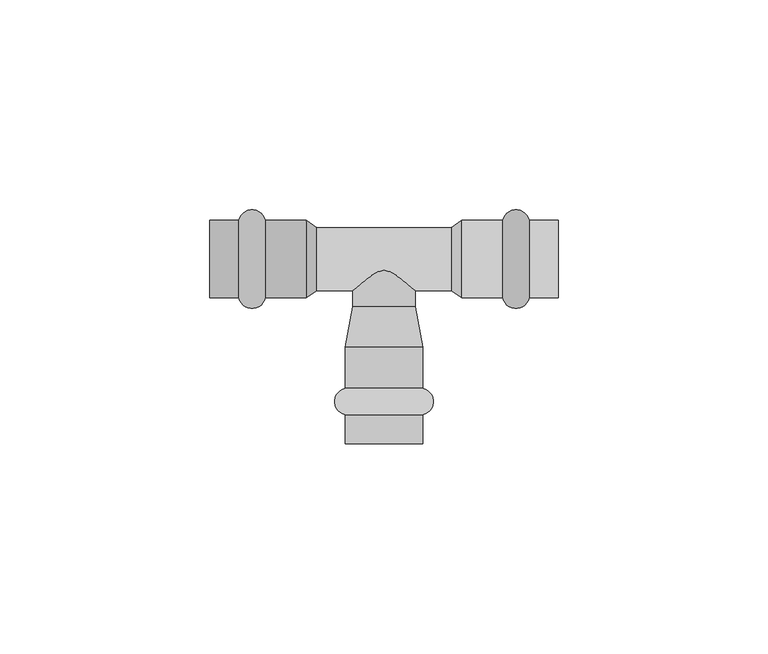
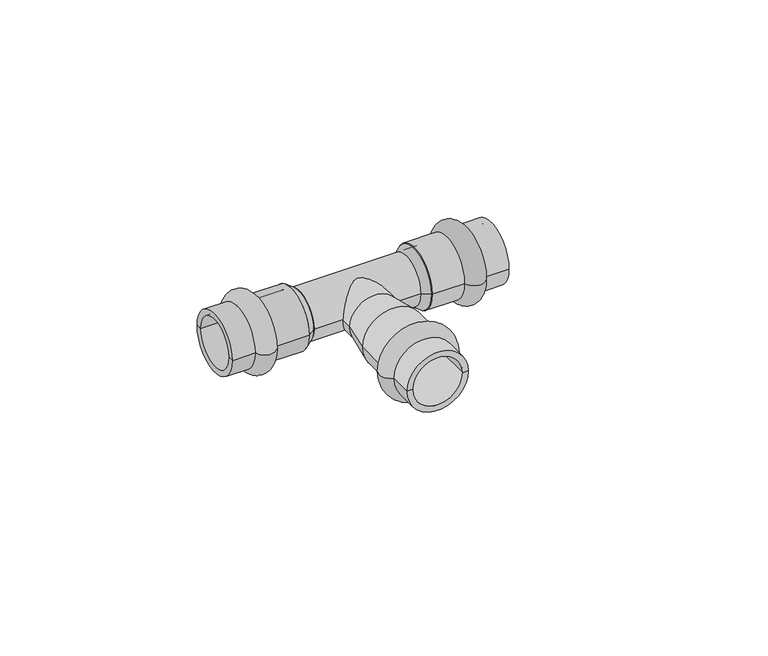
"""IFC4 building model written with IfcOpenShell, lengths in millimetres: pipe fitting geometry, VALTEC_VTi.931.I_Тройник_Ннержавеющая сталь : VTi.931.I."""

import ifcopenshell
import ifcopenshell.guid

model = None  # the IFC model being written
_history = None  # IfcOwnerHistory: only IFC2X3 demands one
_inside = {}  # id of a spatial element -> (the spatial element, [elements in it])
_under = {}  # id of a project, library or spatial element -> (it, [spatial elements below it])
_declared = {}  # id of a project -> (the project, [libraries it declares])
_typed = {}  # id of a type object -> (the type object, [elements of that type])
_made_of = {}  # id of a material, layer set ... -> (it, [elements and type objects made of it])


def new_model(schema):
    """Start an empty IFC model of exactly this schema.

    Asked for "IFC4X3", IfcOpenShell would pick the latest addendum, in which some entities
    have other attributes; the version numbers below select the first issue.
    IFC2X3 requires an IfcOwnerHistory on every rooted entity: one is made here for all.
    """
    global model, _history
    if schema == "IFC4X3":
        model = ifcopenshell.file(schema_version=(4, 3, 0, 0))
    else:
        model = ifcopenshell.file(schema=schema)
    _inside.clear()
    _under.clear()
    _declared.clear()
    _typed.clear()
    _made_of.clear()
    _history = None
    if model.schema == "IFC2X3":
        org = make("IfcOrganization", Name="unknown")
        user = make(
            "IfcPersonAndOrganization",
            ThePerson=make("IfcPerson", FamilyName="unknown"),
            TheOrganization=org,
        )
        app = make(
            "IfcApplication",
            ApplicationDeveloper=org,
            Version="unknown",
            ApplicationFullName="unknown",
            ApplicationIdentifier="unknown",
        )
        _history = make(
            "IfcOwnerHistory",
            OwningUser=user,
            OwningApplication=app,
            ChangeAction="ADDED",
            CreationDate=0,
        )
    return model


def make(cls, **values):
    """One entity of the class cls with the attributes given. An attribute that is None is left unset."""
    return model.create_entity(
        cls, **{name: value for name, value in values.items() if value is not None}
    )


def rooted(cls, **values):
    """An entity with a GlobalId (a new one), such as an element, a storey or a relation."""
    return make(cls, GlobalId=ifcopenshell.guid.new(), OwnerHistory=_history, **values)


def si_unit(unit_type, name, prefix=None):
    """IfcSIUnit, for example si_unit("LENGTHUNIT", "METRE", prefix="MILLI")."""
    return make("IfcSIUnit", UnitType=unit_type, Prefix=prefix, Name=name)


def assignment(units):
    """IfcUnitAssignment: the units of a project."""
    return None if units is None else make("IfcUnitAssignment", Units=units)


def point(xyz):
    """IfcCartesianPoint."""
    return None if xyz is None else make("IfcCartesianPoint", Coordinates=xyz)


def direction(xyz):
    """IfcDirection."""
    return None if xyz is None else make("IfcDirection", DirectionRatios=xyz)


def frame(location, z_axis=None, x_axis=None):
    """IfcAxis2Placement3D, a coordinate frame: its origin and axes. An axis left out is left unset."""
    return make(
        "IfcAxis2Placement3D",
        Location=point(location),
        Axis=direction(z_axis),
        RefDirection=direction(x_axis),
    )


def frame_2d(location, x_axis=None):
    """IfcAxis2Placement2D, a coordinate frame in the plane: its origin and x axis."""
    return make(
        "IfcAxis2Placement2D", Location=point(location), RefDirection=direction(x_axis)
    )


def origin():
    """The frame at (0, 0, 0) with its axes left unset."""
    return frame((0.0, 0.0, 0.0))


def origin_2d():
    """The frame at (0, 0) in the plane with its x axis left unset."""
    return frame_2d((0.0, 0.0))


def place(relative_to, where):
    """IfcLocalPlacement: puts the frame where relative to a parent placement (None: the world)."""
    return make(
        "IfcLocalPlacement", PlacementRelTo=relative_to, RelativePlacement=where
    )


def context(
    kind, dimensions, precision=None, world=None, true_north=None, identifier=None
):
    """IfcGeometricRepresentationContext, for example the 3D "Model" context."""
    return make(
        "IfcGeometricRepresentationContext",
        ContextIdentifier=identifier,
        ContextType=kind,
        CoordinateSpaceDimension=dimensions,
        Precision=precision,
        WorldCoordinateSystem=world,
        TrueNorth=true_north,
    )


def project(units=None, contexts=None):
    """IfcProject with its units and contexts."""
    return rooted(
        "IfcProject",
        Name="project",
        RepresentationContexts=contexts,
        UnitsInContext=assignment(units),
    )


def spatial(cls, under=None, at=None, **own):
    """A site, building, storey or space (cls), placed at a placement, below another one or the project."""
    s = rooted(cls, ObjectPlacement=at, **own)
    if under is not None:
        _under.setdefault(under.id(), (under, []))[1].append(s)
    return s


def polyline(points):
    """IfcPolyline through the points."""
    return make("IfcPolyline", Points=[point(p) for p in points])


def circle_curve(where, radius):
    """IfcCircle in the frame where."""
    return make("IfcCircle", Position=where, Radius=radius)


def ellipse_curve(where, semi_axis1, semi_axis2):
    """IfcEllipse in the frame where."""
    return make(
        "IfcEllipse", Position=where, SemiAxis1=semi_axis1, SemiAxis2=semi_axis2
    )


def trimmed(basis, trim1, trim2, sense, master):
    """IfcTrimmedCurve: the piece of a basis curve between two trims."""
    return make(
        "IfcTrimmedCurve",
        BasisCurve=basis,
        Trim1=trim1,
        Trim2=trim2,
        SenseAgreement=sense,
        MasterRepresentation=master,
    )


def segment(curve, same_sense, transition):
    """IfcCompositeCurveSegment."""
    return make(
        "IfcCompositeCurveSegment",
        Transition=transition,
        SameSense=same_sense,
        ParentCurve=curve,
    )


def composite_curve(segments, self_intersect=None):
    """IfcCompositeCurve: segments joined end to end."""
    return make("IfcCompositeCurve", Segments=segments, SelfIntersect=self_intersect)


def outline(outer, holes=None, kind="AREA"):
    """IfcArbitraryClosedProfileDef: a profile drawn as a closed curve; with holes, ...WithVoids."""
    if holes is None:
        return make("IfcArbitraryClosedProfileDef", ProfileType=kind, OuterCurve=outer)
    return make(
        "IfcArbitraryProfileDefWithVoids",
        ProfileType=kind,
        OuterCurve=outer,
        InnerCurves=holes,
    )


def extrude(swept, where, along, depth):
    """IfcExtrudedAreaSolid: the profile swept, set in the frame where, extruded along a direction by depth."""
    return make(
        "IfcExtrudedAreaSolid",
        SweptArea=swept,
        Position=where,
        ExtrudedDirection=direction(along),
        Depth=depth,
    )


def shape(context_of_items, identifier, shape_type, items):
    """IfcShapeRepresentation: the items that make up one representation, for example the "Body"."""
    return make(
        "IfcShapeRepresentation",
        ContextOfItems=context_of_items,
        RepresentationIdentifier=identifier,
        RepresentationType=shape_type,
        Items=items,
    )


def source(mapping_origin, context_of_items, identifier, shape_type, items):
    """IfcRepresentationMap: a shape defined once, which mapped items show again and again."""
    return make(
        "IfcRepresentationMap",
        MappingOrigin=mapping_origin,
        MappedRepresentation=shape(context_of_items, identifier, shape_type, items),
    )


def transform(
    local_origin,
    x_axis=None,
    y_axis=None,
    z_axis=None,
    scale=None,
    scale2=None,
    scale3=None,
    uniform=True,
):
    """IfcCartesianTransformationOperator3D, or its non-uniform kind. x_axis, y_axis, z_axis: its Axis1, 2, 3."""
    if uniform:
        return make(
            "IfcCartesianTransformationOperator3D",
            Axis1=direction(x_axis),
            Axis2=direction(y_axis),
            LocalOrigin=point(local_origin),
            Scale=scale,
            Axis3=direction(z_axis),
        )
    return make(
        "IfcCartesianTransformationOperator3DnonUniform",
        Axis1=direction(x_axis),
        Axis2=direction(y_axis),
        LocalOrigin=point(local_origin),
        Scale=scale,
        Axis3=direction(z_axis),
        Scale2=scale2,
        Scale3=scale3,
    )


def mapped(mapping_source, mapping_target):
    """IfcMappedItem: shows the shape of a source again, moved by a transform."""
    return make(
        "IfcMappedItem", MappingSource=mapping_source, MappingTarget=mapping_target
    )


def made_of(thing, what):
    """Note that an element or type object is made of a material, layer set ...; save() writes the relation."""
    if what is not None:
        _made_of.setdefault(what.id(), (what, []))[1].append(thing)
    return thing


def element(
    cls,
    number,
    at=None,
    inside=None,
    cuts=None,
    type_object=None,
    material=None,
    context=None,
    identifier="Body",
    shape_type=None,
    held_by="IfcProductDefinitionShape",
    body=None,
    shapes=None,
    **own,
):
    """One element of the class cls, such as IfcWall. Its Tag is "e" and its number.

    at: its placement. inside: the storey or other place that contains it. cuts: it is an
    opening in that element (IfcRelVoidsElement). A single representation is given by context,
    identifier, shape_type and body (its items); several are given by shapes. held_by: the class
    of the entity that holds the representations. save() writes the other relations.
    """
    e = rooted(cls, Tag="e%d" % number, ObjectPlacement=at, **own)
    if body is not None:
        shapes = [shape(context, identifier, shape_type, body)]
    if shapes is not None:
        e.Representation = make(held_by, Representations=shapes)
    if inside is not None:
        _inside.setdefault(inside.id(), (inside, []))[1].append(e)
    if cuts is not None:
        rooted(
            "IfcRelVoidsElement", RelatingBuildingElement=cuts, RelatedOpeningElement=e
        )
    if type_object is not None:
        _typed.setdefault(type_object.id(), (type_object, []))[1].append(e)
    return made_of(e, material)


def aggregate(whole, parts):
    """IfcRelAggregates: a whole, such as a stair, and the parts it consists of."""
    return rooted("IfcRelAggregates", RelatingObject=whole, RelatedObjects=parts)


def save(model, path):
    """Write the relations noted so far, then the file.

    IfcRelAggregates (storeys below a building ...), IfcRelContainedInSpatialStructure (elements
    in a storey), IfcRelDefinesByType, IfcRelAssociatesMaterial and IfcRelDeclares: one each for
    every whole, place, type object, material and project.
    """
    for whole, parts in _under.values():
        aggregate(whole, parts)
    for where, things in _inside.values():
        rooted(
            "IfcRelContainedInSpatialStructure",
            RelatedElements=things,
            RelatingStructure=where,
        )
    for kind, things in _typed.values():
        rooted("IfcRelDefinesByType", RelatedObjects=things, RelatingType=kind)
    for what, things in _made_of.values():
        rooted("IfcRelAssociatesMaterial", RelatedObjects=things, RelatingMaterial=what)
    for by, libraries in _declared.values():
        rooted("IfcRelDeclares", RelatingContext=by, RelatedDefinitions=libraries)
    model.write(path)


def plane_surface(at):
    """IfcPlane: the flat surface through the origin of the frame at, square to its z axis."""
    return make("IfcPlane", Position=at)


def cylinder_surface(at, radius):
    """IfcCylindricalSurface: all points at the distance radius from the z axis of the frame at."""
    return make("IfcCylindricalSurface", Position=at, Radius=radius)


def revolved_surface(curve, axis_point, axis_direction):
    """IfcSurfaceOfRevolution: the curve turned about the line through axis_point along axis_direction."""
    return make(
        "IfcSurfaceOfRevolution",
        SweptCurve=make("IfcArbitraryOpenProfileDef", ProfileType="CURVE", Curve=curve),
        AxisPosition=make("IfcAxis1Placement", Location=point(axis_point), Axis=direction(axis_direction)),
    )


def advanced_brep(points, edges, surfaces, faces):
    """IfcAdvancedBrep: a solid bounded by faces that lie on surfaces and meet in shared edges.

    An edge is (start, end): straight between two places in points (the first is 0);
    or (start, end, curve); or (start, end, curve, False) where it runs against its curve.
    A face is (place in surfaces, loops), or (place, loops, False) where it looks against
    its surface's normal. A loop lists edges by number (the first is 1), with a minus sign
    where the edge is run from its end to its start. The first loop is the outer one.
    """
    corners = [point(p) for p in points]
    vertices = [make("IfcVertexPoint", VertexGeometry=c) for c in corners]
    made = []
    for start, end, *more in edges:
        made.append(
            make(
                "IfcEdgeCurve",
                EdgeStart=vertices[start],
                EdgeEnd=vertices[end],
                EdgeGeometry=more[0] if more else make("IfcPolyline", Points=[corners[start], corners[end]]),
                SameSense=more[1] if len(more) > 1 else True,
            )
        )
    hull = []
    for where, loops, *sense in faces:
        bounds = []
        for j, loop in enumerate(loops):
            ring = [make("IfcOrientedEdge", EdgeElement=made[abs(k) - 1], Orientation=k > 0) for k in loop]
            bounds.append(
                make(
                    "IfcFaceOuterBound" if j == 0 else "IfcFaceBound",
                    Bound=make("IfcEdgeLoop", EdgeList=ring),
                    Orientation=True,
                )
            )
        hull.append(make("IfcAdvancedFace", Bounds=bounds, FaceSurface=surfaces[where], SameSense=sense[0] if sense else True))
    return make("IfcAdvancedBrep", Outer=make("IfcClosedShell", CfsFaces=hull))


def pipe_fitting_9827f572(model_context):
    return source(origin(), model_context, "Body", "SolidModel", [
        advanced_brep(
        [(9.25, -37.1122777, 0.0), (-9.25, -37.1122777, 0.0), (-9.25, -30.7877223, 0.0), (9.25, -30.7877223, 0.0), (9.25, -44.0, 0.0), (-9.25, -44.0, 0.0), (7.5, -44.0, 0.0), (-7.5, -44.0, 0.0), (7.5, -21.0, 0.0), (-7.5, -21.0, 0.0), (9.25, -21.0, 0.0), (-9.25, -21.0, 0.0)],
        [
            (0, 1, circle_curve(frame((0.0, -37.1122777, 0.0), z_axis=(0.0, 1.0, 0.0), x_axis=(-1.0, 0.0, 0.0)), 9.25)),
            (1, 2, circle_curve(frame((-8.5, -33.95, 0.0), z_axis=(0.0, 0.0, -1.0), x_axis=(0.0, 1.0, 0.0)), 3.25)),
            (2, 3, circle_curve(frame((0.0, -30.7877223, 0.0), z_axis=(0.0, -1.0, 0.0), x_axis=(-1.0, 0.0, 0.0)), 9.25)),
            (3, 0, circle_curve(frame((8.5, -33.95, 0.0), z_axis=(0.0, 0.0, -1.0), x_axis=(0.0, 1.0, 0.0)), 3.25)),
            (1, 0, circle_curve(frame((0.0, -37.1122777, 0.0), z_axis=(0.0, 1.0, 0.0), x_axis=(-1.0, 0.0, 0.0)), 9.25)),
            (3, 2, circle_curve(frame((0.0, -30.7877223, 0.0), z_axis=(0.0, -1.0, 0.0), x_axis=(-1.0, 0.0, 0.0)), 9.25)),
            (4, 5, circle_curve(frame((0.0, -44.0, 0.0), z_axis=(0.0, 1.0, 0.0), x_axis=(-1.0, 0.0, 0.0)), 9.25)),
            (5, 1),
            (0, 4),
            (5, 4, circle_curve(frame((0.0, -44.0, 0.0), z_axis=(0.0, 1.0, 0.0), x_axis=(-1.0, 0.0, 0.0)), 9.25)),
            (6, 7, circle_curve(frame((0.0, -44.0, 0.0), z_axis=(0.0, 1.0, 0.0), x_axis=(-1.0, 0.0, 0.0)), 7.5)),
            (7, 5),
            (4, 6),
            (7, 6, circle_curve(frame((0.0, -44.0, 0.0), z_axis=(0.0, 1.0, 0.0), x_axis=(-1.0, 0.0, 0.0)), 7.5)),
            (8, 9, circle_curve(frame((0.0, -21.0, 0.0), z_axis=(0.0, 1.0, 0.0), x_axis=(-1.0, 0.0, 0.0)), 7.5)),
            (9, 7),
            (6, 8),
            (9, 8, circle_curve(frame((0.0, -21.0, 0.0), z_axis=(0.0, 1.0, 0.0), x_axis=(-1.0, 0.0, 0.0)), 7.5)),
            (10, 11, circle_curve(frame((0.0, -21.0, 0.0), z_axis=(0.0, 1.0, 0.0), x_axis=(-1.0, 0.0, 0.0)), 9.25)),
            (11, 9),
            (8, 10),
            (11, 10, circle_curve(frame((0.0, -21.0, 0.0), z_axis=(0.0, 1.0, 0.0), x_axis=(-1.0, 0.0, 0.0)), 9.25)),
            (2, 11),
            (10, 3),
        ],
        [
            revolved_surface(trimmed(ellipse_curve(frame((-8.5, -33.95, 0.0), z_axis=(0.0, 0.0, 1.0), x_axis=(0.0, 1.0, 0.0)), 3.25, 3.25), [point((-9.25, -30.7877223, 0.0))], [point((-9.25, -37.1122777, 0.0))], True, "CARTESIAN"), (0.0, -47.5364426, 0.0), (0.0, -1.0, 0.0)),
            cylinder_surface(frame((0.0, -47.5364426, 0.0), z_axis=(0.0, -1.0, 0.0), x_axis=(-1.0, 0.0, 0.0)), 9.25),
            plane_surface(frame((0.0, -44.0, 0.0), z_axis=(0.0, -1.0, 0.0), x_axis=(-1.0, 0.0, 0.0))),
            revolved_surface(polyline([(-7.5, -44.0, 0.0), (-7.5, -21.0, 0.0)]), (0.0, -47.5364426, 0.0), (0.0, -1.0, 0.0)),
            plane_surface(frame((0.0, -21.0, 0.0), z_axis=(0.0, 1.0, 0.0), x_axis=(-1.0, 0.0, 0.0))),
        ],
        [
            (0, [[1, 2, 3, 4]]),
            (0, [[5, -4, 6, -2]]),
            (1, [[7, 8, -1, 9]]),
            (1, [[10, -9, -5, -8]]),
            (2, [[11, 12, -7, 13]]),
            (2, [[14, -13, -10, -12]]),
            (3, [[15, 16, -11, 17]]),
            (3, [[18, -17, -14, -16]]),
            (4, [[19, 20, -15, 21]]),
            (4, [[22, -21, -18, -20]]),
            (1, [[-3, 23, -19, 24]]),
            (1, [[-6, -24, -22, -23]]),
        ],
    ),
        advanced_brep(
        [(34.6122777, 9.25, 0.0), (34.6122777, -9.25, 0.0), (28.2877223, -9.25, 0.0), (28.2877223, 9.25, 0.0), (41.5, 9.25, 0.0), (41.5, -9.25, 0.0), (41.5, 7.5, 0.0), (41.5, -7.5, 0.0), (18.5, 7.5, 0.0), (18.5, -7.5, 0.0), (18.5, 9.25, 0.0), (18.5, -9.25, 0.0)],
        [
            (0, 1, circle_curve(frame((34.6122777, 0.0, 0.0), z_axis=(-1.0, 0.0, 0.0), x_axis=(0.0, -1.0, 0.0)), 9.25)),
            (1, 2, circle_curve(frame((31.45, -8.5, 0.0), z_axis=(0.0, 0.0, -1.0), x_axis=(-1.0, 0.0, 0.0)), 3.25)),
            (2, 3, circle_curve(frame((28.2877223, 0.0, 0.0), z_axis=(1.0, 0.0, 0.0), x_axis=(0.0, -1.0, 0.0)), 9.25)),
            (3, 0, circle_curve(frame((31.45, 8.5, 0.0), z_axis=(0.0, 0.0, -1.0), x_axis=(-1.0, 0.0, 0.0)), 3.25)),
            (1, 0, circle_curve(frame((34.6122777, 0.0, 0.0), z_axis=(-1.0, 0.0, 0.0), x_axis=(0.0, -1.0, 0.0)), 9.25)),
            (3, 2, circle_curve(frame((28.2877223, 0.0, 0.0), z_axis=(1.0, 0.0, 0.0), x_axis=(0.0, -1.0, 0.0)), 9.25)),
            (4, 5, circle_curve(frame((41.5, 0.0, 0.0), z_axis=(-1.0, 0.0, 0.0), x_axis=(0.0, -1.0, 0.0)), 9.25)),
            (5, 1),
            (0, 4),
            (5, 4, circle_curve(frame((41.5, 0.0, 0.0), z_axis=(-1.0, 0.0, 0.0), x_axis=(0.0, -1.0, 0.0)), 9.25)),
            (6, 7, circle_curve(frame((41.5, 0.0, 0.0), z_axis=(-1.0, 0.0, 0.0), x_axis=(0.0, -1.0, 0.0)), 7.5)),
            (7, 5),
            (4, 6),
            (7, 6, circle_curve(frame((41.5, 0.0, 0.0), z_axis=(-1.0, 0.0, 0.0), x_axis=(0.0, -1.0, 0.0)), 7.5)),
            (8, 9, circle_curve(frame((18.5, 0.0, 0.0), z_axis=(-1.0, 0.0, 0.0), x_axis=(0.0, -1.0, 0.0)), 7.5)),
            (9, 7),
            (6, 8),
            (9, 8, circle_curve(frame((18.5, 0.0, 0.0), z_axis=(-1.0, 0.0, 0.0), x_axis=(0.0, -1.0, 0.0)), 7.5)),
            (10, 11, circle_curve(frame((18.5, 0.0, 0.0), z_axis=(-1.0, 0.0, 0.0), x_axis=(0.0, -1.0, 0.0)), 9.25)),
            (11, 9),
            (8, 10),
            (11, 10, circle_curve(frame((18.5, 0.0, 0.0), z_axis=(-1.0, 0.0, 0.0), x_axis=(0.0, -1.0, 0.0)), 9.25)),
            (2, 11),
            (10, 3),
        ],
        [
            revolved_surface(trimmed(ellipse_curve(frame((31.45, -8.5, 0.0), z_axis=(0.0, 0.0, 1.0), x_axis=(-1.0, 0.0, 0.0)), 3.25, 3.25), [point((28.2877223, -9.25, 0.0))], [point((34.6122777, -9.25, 0.0))], True, "CARTESIAN"), (45.0364426, 0.0, 0.0), (1.0, 0.0, 0.0)),
            cylinder_surface(frame((45.0364426, 0.0, 0.0), z_axis=(1.0, 0.0, 0.0), x_axis=(0.0, -1.0, 0.0)), 9.25),
            plane_surface(frame((41.5, 0.0, 0.0), z_axis=(1.0, 0.0, 0.0), x_axis=(0.0, -1.0, 0.0))),
            revolved_surface(polyline([(41.5, -7.5, 0.0), (18.5, -7.5, 0.0)]), (45.0364426, 0.0, 0.0), (1.0, 0.0, 0.0)),
            plane_surface(frame((18.5, 0.0, 0.0), z_axis=(-1.0, 0.0, 0.0), x_axis=(0.0, -1.0, 0.0))),
        ],
        [
            (0, [[1, 2, 3, 4]]),
            (0, [[5, -4, 6, -2]]),
            (1, [[7, 8, -1, 9]]),
            (1, [[10, -9, -5, -8]]),
            (2, [[11, 12, -7, 13]]),
            (2, [[14, -13, -10, -12]]),
            (3, [[15, 16, -11, 17]]),
            (3, [[18, -17, -14, -16]]),
            (4, [[19, 20, -15, 21]]),
            (4, [[22, -21, -18, -20]]),
            (1, [[-3, 23, -19, 24]]),
            (1, [[-6, -24, -22, -23]]),
        ],
    ),
        advanced_brep(
        [(-34.6122777, -9.25, 0.0), (-34.6122777, 9.25, 0.0), (-28.2877223, 9.25, 0.0), (-28.2877223, -9.25, 0.0), (-41.5, -9.25, 0.0), (-41.5, 9.25, 0.0), (-41.5, -7.5, 0.0), (-41.5, 7.5, 0.0), (-18.5, -7.5, 0.0), (-18.5, 7.5, 0.0), (-18.5, -9.25, 0.0), (-18.5, 9.25, 0.0)],
        [
            (0, 1, circle_curve(frame((-34.6122777, 0.0, 0.0), z_axis=(1.0, 0.0, 0.0), x_axis=(0.0, 1.0, 0.0)), 9.25)),
            (1, 2, circle_curve(frame((-31.45, 8.5, 0.0), z_axis=(0.0, 0.0, -1.0), x_axis=(1.0, 0.0, 0.0)), 3.25)),
            (2, 3, circle_curve(frame((-28.2877223, 0.0, 0.0), z_axis=(-1.0, 0.0, 0.0), x_axis=(0.0, 1.0, 0.0)), 9.25)),
            (3, 0, circle_curve(frame((-31.45, -8.5, 0.0), z_axis=(0.0, 0.0, -1.0), x_axis=(1.0, 0.0, 0.0)), 3.25)),
            (1, 0, circle_curve(frame((-34.6122777, 0.0, 0.0), z_axis=(1.0, 0.0, 0.0), x_axis=(0.0, 1.0, 0.0)), 9.25)),
            (3, 2, circle_curve(frame((-28.2877223, 0.0, 0.0), z_axis=(-1.0, 0.0, 0.0), x_axis=(0.0, 1.0, 0.0)), 9.25)),
            (4, 5, circle_curve(frame((-41.5, 0.0, 0.0), z_axis=(1.0, 0.0, 0.0), x_axis=(0.0, 1.0, 0.0)), 9.25)),
            (5, 1),
            (0, 4),
            (5, 4, circle_curve(frame((-41.5, 0.0, 0.0), z_axis=(1.0, 0.0, 0.0), x_axis=(0.0, 1.0, 0.0)), 9.25)),
            (6, 7, circle_curve(frame((-41.5, 0.0, 0.0), z_axis=(1.0, 0.0, 0.0), x_axis=(0.0, 1.0, 0.0)), 7.5)),
            (7, 5),
            (4, 6),
            (7, 6, circle_curve(frame((-41.5, 0.0, 0.0), z_axis=(1.0, 0.0, 0.0), x_axis=(0.0, 1.0, 0.0)), 7.5)),
            (8, 9, circle_curve(frame((-18.5, 0.0, 0.0), z_axis=(1.0, 0.0, 0.0), x_axis=(0.0, 1.0, 0.0)), 7.5)),
            (9, 7),
            (6, 8),
            (9, 8, circle_curve(frame((-18.5, 0.0, 0.0), z_axis=(1.0, 0.0, 0.0), x_axis=(0.0, 1.0, 0.0)), 7.5)),
            (10, 11, circle_curve(frame((-18.5, 0.0, 0.0), z_axis=(1.0, 0.0, 0.0), x_axis=(0.0, 1.0, 0.0)), 9.25)),
            (11, 9),
            (8, 10),
            (11, 10, circle_curve(frame((-18.5, 0.0, 0.0), z_axis=(1.0, 0.0, 0.0), x_axis=(0.0, 1.0, 0.0)), 9.25)),
            (2, 11),
            (10, 3),
        ],
        [
            revolved_surface(trimmed(ellipse_curve(frame((-31.45, 8.5, 0.0), z_axis=(0.0, 0.0, 1.0), x_axis=(1.0, 0.0, 0.0)), 3.25, 3.25), [point((-28.2877223, 9.25, 0.0))], [point((-34.6122777, 9.25, 0.0))], True, "CARTESIAN"), (-45.0364426, 0.0, 0.0), (-1.0, 0.0, 0.0)),
            cylinder_surface(frame((-45.0364426, 0.0, 0.0), z_axis=(-1.0, 0.0, 0.0), x_axis=(0.0, 1.0, 0.0)), 9.25),
            plane_surface(frame((-41.5, 0.0, 0.0), z_axis=(-1.0, 0.0, 0.0), x_axis=(0.0, 1.0, 0.0))),
            revolved_surface(polyline([(-41.5, 7.5, 0.0), (-18.5, 7.5, 0.0)]), (-45.0364426, 0.0, 0.0), (-1.0, 0.0, 0.0)),
            plane_surface(frame((-18.5, 0.0, 0.0), z_axis=(1.0, 0.0, 0.0), x_axis=(0.0, 1.0, 0.0))),
        ],
        [
            (0, [[1, 2, 3, 4]]),
            (0, [[5, -4, 6, -2]]),
            (1, [[7, 8, -1, 9]]),
            (1, [[10, -9, -5, -8]]),
            (2, [[11, 12, -7, 13]]),
            (2, [[14, -13, -10, -12]]),
            (3, [[15, 16, -11, 17]]),
            (3, [[18, -17, -14, -16]]),
            (4, [[19, 20, -15, 21]]),
            (4, [[22, -21, -18, -20]]),
            (1, [[-3, 23, -19, 24]]),
            (1, [[-6, -24, -22, -23]]),
        ],
    ),
        extrude(outline(composite_curve([segment(trimmed(circle_curve(origin_2d(), 7.5), [point((-7.5, 0.0))], [point((7.5, 0.0))], False, "CARTESIAN"), True, "CONTINUOUS"), segment(trimmed(circle_curve(origin_2d(), 7.5), [point((7.5, 0.0))], [point((-7.5, 0.0))], False, "CARTESIAN"), True, "CONTINUOUS")], self_intersect=False)), frame((-16.0, 0.0, 0.0), z_axis=(1.0, 0.0, 0.0), x_axis=(0.0, 1.0, 0.0)), (0.0, 0.0, 1.0), 32.0),
        advanced_brep(
        [(-9.25, -21.0, 0.0), (9.25, -21.0, 0.0), (-7.5, -11.3209826, 0.0), (7.5, -11.3209826, 0.0)],
        [
            (0, 1, circle_curve(frame((0.0, -21.0, 0.0), z_axis=(0.0, -1.0, 0.0), x_axis=(-1.0, 0.0, 0.0)), 9.25)),
            (1, 0, circle_curve(frame((0.0, -21.0, 0.0), z_axis=(0.0, -1.0, 0.0), x_axis=(1.0, 0.0, 0.0)), 9.25)),
            (2, 3, circle_curve(frame((0.0, -11.3209826, 0.0), z_axis=(0.0, 1.0, 0.0), x_axis=(1.0, 0.0, 0.0)), 7.5)),
            (3, 2, circle_curve(frame((0.0, -11.3209826, 0.0), z_axis=(0.0, 1.0, 0.0), x_axis=(-1.0, 0.0, 0.0)), 7.5)),
            (3, 1),
            (0, 2),
        ],
        [
            plane_surface(frame((0.0, -21.0, 0.0), z_axis=(0.0, -1.0, 0.0), x_axis=(0.0, 0.0, 1.0))),
            plane_surface(frame((0.0, -11.3209826, 0.0), z_axis=(0.0, 1.0, 0.0), x_axis=(0.0, 0.0, 1.0))),
            revolved_surface(polyline([(7.500000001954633, -11.320982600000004, 0.0), (9.25, -20.999999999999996, 0.0)]), (0.0, 30.1605206, 0.0), (0.0, -1.0, 0.0)),
            revolved_surface(polyline([(-7.500000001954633, -11.320982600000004, 0.0), (-9.25, -20.999999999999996, 0.0)]), (0.0, 30.1605206, 0.0), (0.0, -1.0, 0.0)),
        ],
        [
            (0, [[1, 2]]),
            (1, [[3, 4]]),
            (2, [[-4, 5, -1, 6]]),
            (3, [[-3, -6, -2, -5]]),
        ],
    ),
        extrude(outline(composite_curve([segment(trimmed(circle_curve(origin_2d(), 7.5), [point((0.0, -7.5))], [point((0.0, 7.5))], False, "CARTESIAN"), True, "CONTINUOUS"), segment(trimmed(circle_curve(origin_2d(), 7.5), [point((0.0, 7.5))], [point((0.0, -7.5))], False, "CARTESIAN"), True, "CONTINUOUS")], self_intersect=False)), frame((0.0, -11.3209826, 0.0), z_axis=(0.0, 1.0, 0.0), x_axis=(0.0, 0.0, 1.0)), (0.0, 0.0, 1.0), 11.3209826),
        advanced_brep(
        [(18.5, -9.25, 0.0), (18.5, 9.25, 0.0), (16.0, -7.5, 0.0), (16.0, 7.5, 0.0)],
        [
            (0, 1, circle_curve(frame((18.5, 0.0, 0.0), z_axis=(1.0, 0.0, 0.0), x_axis=(0.0, -1.0, 0.0)), 9.25)),
            (1, 0, circle_curve(frame((18.5, 0.0, 0.0), z_axis=(1.0, 0.0, 0.0), x_axis=(0.0, 1.0, 0.0)), 9.25)),
            (2, 3, circle_curve(frame((16.0, 0.0, 0.0), z_axis=(-1.0, 0.0, 0.0), x_axis=(0.0, 1.0, 0.0)), 7.5)),
            (3, 2, circle_curve(frame((16.0, 0.0, 0.0), z_axis=(-1.0, 0.0, 0.0), x_axis=(0.0, -1.0, 0.0)), 7.5)),
            (3, 1),
            (0, 2),
        ],
        [
            plane_surface(frame((18.5, 0.0, 0.0), z_axis=(1.0, 0.0, 0.0), x_axis=(0.0, 0.0, 1.0))),
            plane_surface(frame((16.0, 0.0, 0.0), z_axis=(-1.0, 0.0, 0.0), x_axis=(0.0, 0.0, 1.0))),
            revolved_surface(polyline([(16.0, 7.499999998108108, 0.0), (18.5, 9.25, 0.0)]), (5.2857143, 0.0, 0.0), (1.0, 0.0, 0.0)),
            revolved_surface(polyline([(16.0, -7.499999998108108, 0.0), (18.5, -9.25, 0.0)]), (5.2857143, 0.0, 0.0), (1.0, 0.0, 0.0)),
        ],
        [
            (0, [[1, 2]]),
            (1, [[3, 4]]),
            (2, [[-4, 5, -1, 6]]),
            (3, [[-3, -6, -2, -5]]),
        ],
    ),
        advanced_brep(
        [(-18.5, -9.25, 0.0), (-18.5, 9.25, 0.0), (-16.0, -7.5, 0.0), (-16.0, 7.5, 0.0)],
        [
            (0, 1, circle_curve(frame((-18.5, 0.0, 0.0), z_axis=(-1.0, 0.0, 0.0), x_axis=(0.0, -1.0, 0.0)), 9.25)),
            (1, 0, circle_curve(frame((-18.5, 0.0, 0.0), z_axis=(-1.0, 0.0, 0.0), x_axis=(0.0, 1.0, 0.0)), 9.25)),
            (2, 3, circle_curve(frame((-16.0, 0.0, 0.0), z_axis=(1.0, 0.0, 0.0), x_axis=(0.0, 1.0, 0.0)), 7.5)),
            (3, 2, circle_curve(frame((-16.0, 0.0, 0.0), z_axis=(1.0, 0.0, 0.0), x_axis=(0.0, -1.0, 0.0)), 7.5)),
            (2, 0),
            (1, 3),
        ],
        [
            plane_surface(frame((-18.5, 0.0, 0.0), z_axis=(-1.0, 0.0, 0.0), x_axis=(0.0, 0.0, -1.0))),
            plane_surface(frame((-16.0, 0.0, 0.0), z_axis=(1.0, 0.0, 0.0), x_axis=(0.0, 0.0, -1.0))),
            revolved_surface(polyline([(-16.0, -7.499999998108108, 0.0), (-18.5, -9.25, 0.0)]), (-5.2857143, 0.0, 0.0), (-1.0, 0.0, 0.0)),
            revolved_surface(polyline([(-16.0, 7.499999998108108, 0.0), (-18.5, 9.25, 0.0)]), (-5.2857143, 0.0, 0.0), (-1.0, 0.0, 0.0)),
        ],
        [
            (0, [[1, 2]]),
            (1, [[3, 4]]),
            (2, [[-3, 5, -2, 6]]),
            (3, [[-4, -6, -1, -5]]),
        ],
    ),
    ])


if __name__ == "__main__":
    model = new_model("IFC4")
    model_context = context("Model", 3, world=origin())
    ifc_project = project(units=[si_unit("LENGTHUNIT", "METRE", prefix="MILLI")], contexts=[model_context])
    site = spatial("IfcSite", under=ifc_project)
    building = spatial("IfcBuilding", under=site)
    placement = place(None, origin())
    pipe_fitting_shape = pipe_fitting_9827f572(model_context)
    element("IfcPipeFitting", 1, ObjectType="VALTEC_VTi.931.I_Тройник_Ннержавеющая сталь : VTi.931.I", at=placement, inside=building, context=model_context, shape_type="MappedRepresentation", body=[
        mapped(pipe_fitting_shape, transform((0.0, 0.0, 0.0), x_axis=(1.0, 0.0, 0.0), y_axis=(0.0, 1.0, 0.0), z_axis=(0.0, 0.0, 1.0))),
    ])
    save(model, "model.ifc")
